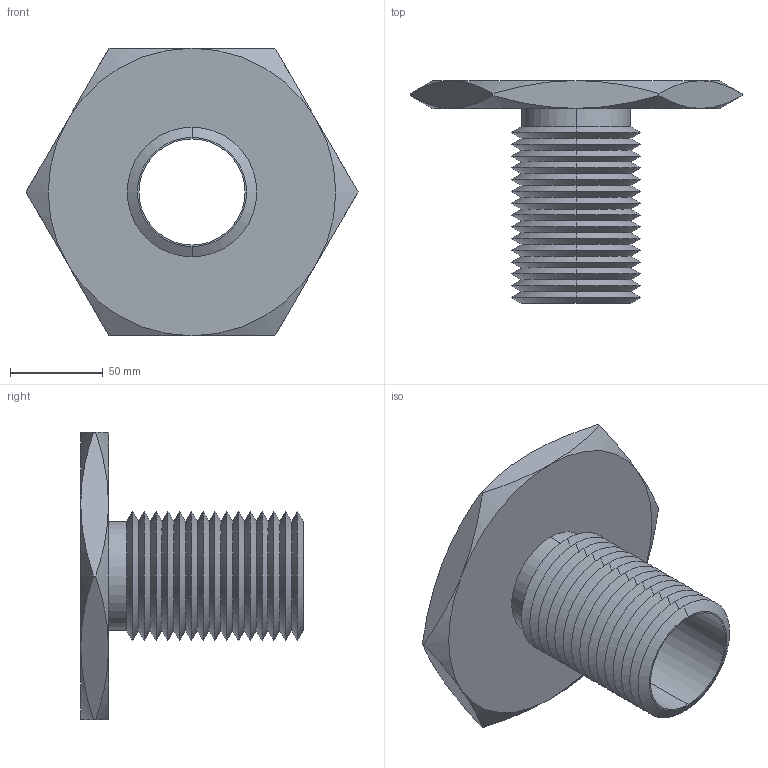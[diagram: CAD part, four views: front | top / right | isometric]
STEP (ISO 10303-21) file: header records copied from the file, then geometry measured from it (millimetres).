
FILE_DESCRIPTION (( 'STEP AP203' ), '1' );
FILE_NAME ('63302.W5275_2,25 UNC-4,5.step', '2013-12-08T11:56:46', ( 'User' ), ( '' ), 'SwSTEP 2.0', 'SolidWorks 2009', '' );
FILE_SCHEMA (( 'CONFIG_CONTROL_DESIGN' ));
Length unit declared in the file: millimetre
Products named in the file (1): 63302.W5275_2,25 UNC-4,5
Bounding box: 178.98 x 120 x 155 mm (x, y, z)
Volume: 330199.4 mm3; surface area: 103893.5 mm2
Topology: 1 solids, 1 shells, 87 faces, 178 edges, 94 vertices
Faces by surface type: cone 74, plane 9, cylinder 4
Entity records: 2479 total; most frequent: CARTESIAN_POINT 584, DIRECTION 412, ORIENTED_EDGE 356, EDGE_CURVE 178, AXIS2_PLACEMENT_3D 170, VERTEX_POINT 94, EDGE_LOOP 90, ADVANCED_FACE 87
